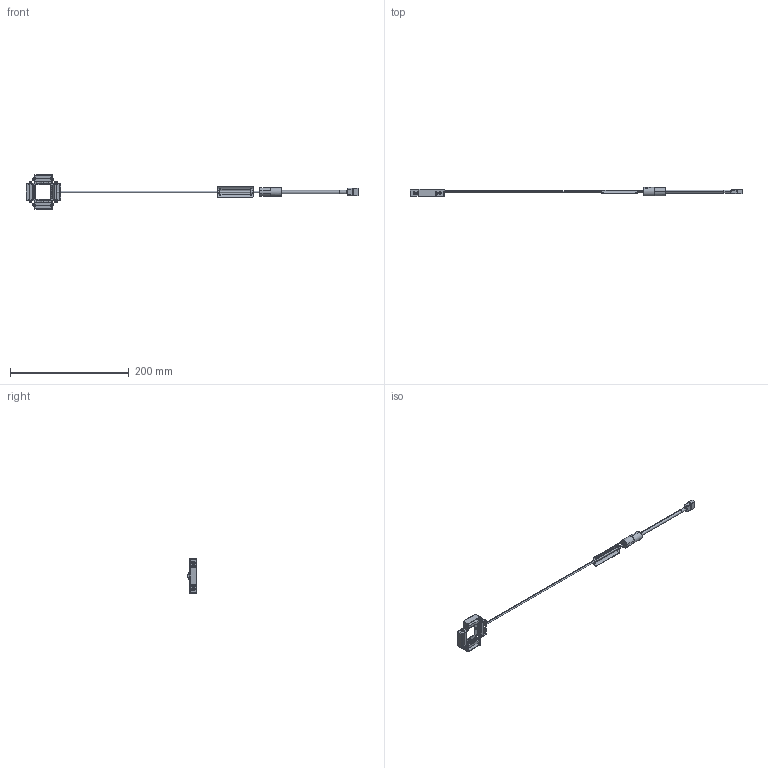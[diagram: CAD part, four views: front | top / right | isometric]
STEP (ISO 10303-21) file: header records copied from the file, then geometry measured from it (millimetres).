
FILE_DESCRIPTION (( 'STEP AP203' ), '1' );
FILE_NAME ('MDQL-C#58_A09348A0100101A-003.STEP', '2013-12-19T08:15:38', ( 'SCHOTT' ), ( 'SCHOTT' ), 'SwSTEP 2.0', 'SolidWorks 2011', '' );
FILE_SCHEMA (( 'CONFIG_CONTROL_DESIGN' ));
Products named in the file (1): MDQL-C#58_A09348A0100101A-003
Bounding box: 558 x 15.1 x 58 mm (x, y, z)
Volume: 23565.6 mm3; surface area: 25501.9 mm2
Topology: 2 solids, 2 shells, 1040 faces, 2822 edges, 1872 vertices
Faces by surface type: plane 532, cylinder 325, cone 68, torus 55, sphere 52, bspline 8
Entity records: 39196 total; most frequent: CARTESIAN_POINT 12565, ORIENTED_EDGE 5604, DIRECTION 5528, EDGE_CURVE 2802, AXIS2_PLACEMENT_3D 2048, VERTEX_POINT 1872, VECTOR 1432, LINE 1432
